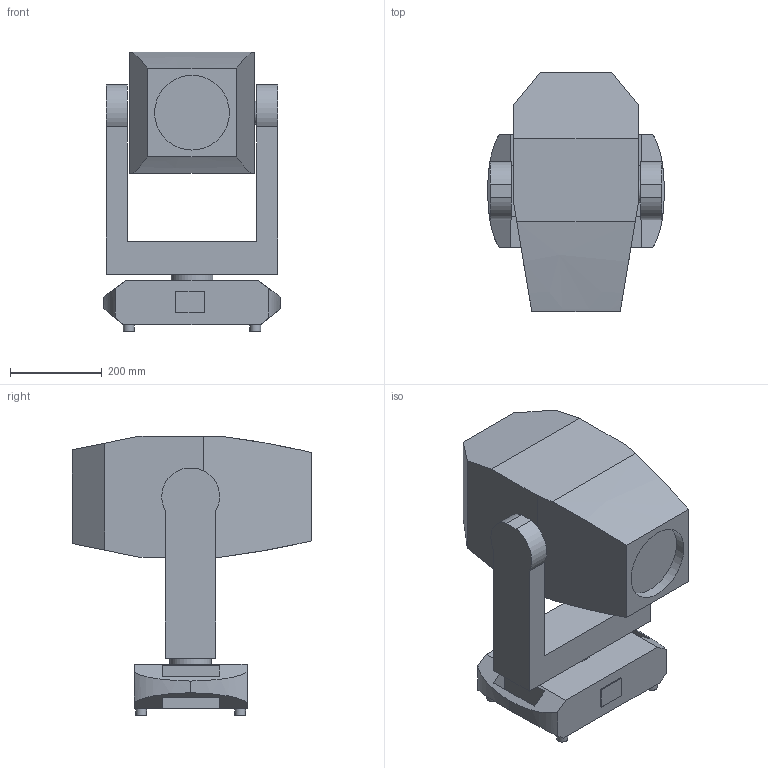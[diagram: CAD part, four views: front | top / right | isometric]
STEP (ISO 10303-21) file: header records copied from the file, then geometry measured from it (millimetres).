
FILE_DESCRIPTION(/* description */ (''),/* implementation_level */ '2;1');
FILE_NAME(/* name */ 'MAVERICK STORM 3 PROFILE_90.stp',/* time_stamp */ '2025-08-07T15:52:10-04:00',/* author */ ('chenry'),/* organization */ (''),/* preprocessor_version */ 'ST-DEVELOPER v20',/* originating_system */ 'Autodesk Inventor 2024',/* authorisation */ '');
FILE_SCHEMA (('AUTOMOTIVE_DESIGN { 1 0 10303 214 3 1 1 }'));
Length unit declared in the file: millimetre
Products named in the file (4): MIP-600_LED_PROFILE_ASM; ARM; Base; Head
Assembly tree (3 placements, depth 2):
  MIP-600_LED_PROFILE_ASM
    ARM
    Base
    Head
Bounding box: 386.28 x 521.8 x 609.53 mm (x, y, z)
Volume: 44912232.4 mm3; surface area: 1278805.8 mm2
Topology: 3 solids, 3 shells, 75 faces, 187 edges, 122 vertices
Faces by surface type: plane 56, cylinder 13, bspline 6
Full cylindrical faces by diameter (mm): 23.335 x4, 50 x2, 91 x2, 163.161 x1
Entity records: 2881 total; most frequent: CARTESIAN_POINT 923, ORIENTED_EDGE 374, DIRECTION 361, EDGE_CURVE 187, LINE 141, VECTOR 141, VERTEX_POINT 122, AXIS2_PLACEMENT_3D 110
